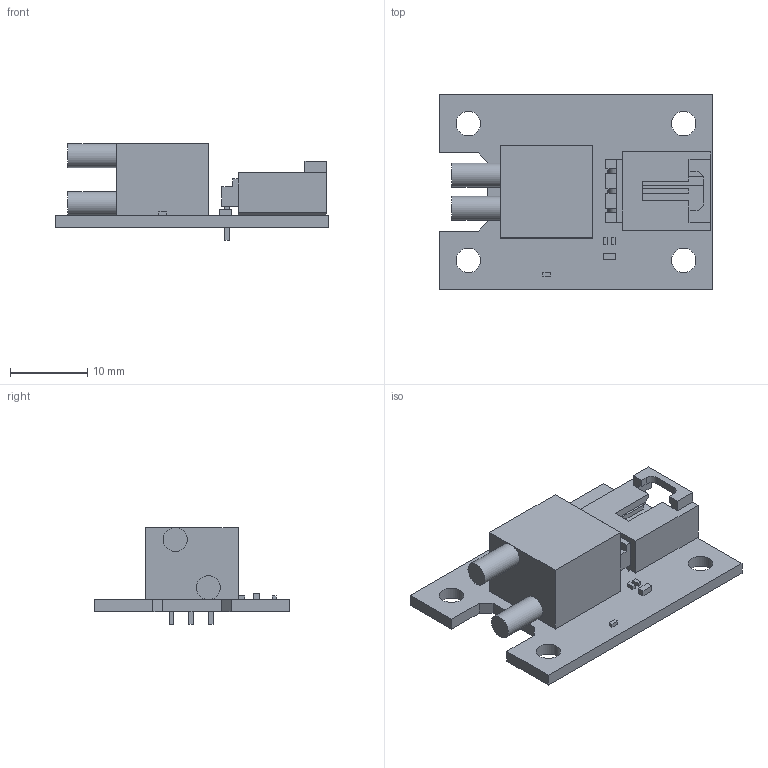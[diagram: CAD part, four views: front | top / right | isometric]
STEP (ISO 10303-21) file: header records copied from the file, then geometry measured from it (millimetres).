
FILE_DESCRIPTION(('Open CASCADE Model'),'2;1');
FILE_NAME('Open CASCADE Shape Model','2012-01-13T11:39:00',('Author'),( 'Open CASCADE'),'Open CASCADE STEP processor 6.2','Open CASCADE 6.2' ,'Unknown');
FILE_SCHEMA(('AUTOMOTIVE_DESIGN { 1 0 10303 214 1 1 1 1 }'));
Length unit declared in the file: millimetre
Products named in the file (23): PCB; Board; R1; 507763136; Extruded; C2; 507755072; J1; 705530002; Open CASCADE STEP translator 6.2 24.4.1.1; Open CASCADE STEP translator 6.2 24.4.1.2; U1; 507755328; 543083232; Cylinder; 507726032; C1; 507754560; C3
Assembly tree (23 placements, depth 4):
  PCB
    Board
    R1
      507763136
        Extruded
    C2
      507755072
        Extruded
    J1
      705530002
        Open CASCADE STEP translator 6.2 24.4.1.1
        Open CASCADE STEP translator 6.2 24.4.1.2
    U1
      507755328
        Extruded
      543083232
        Cylinder
      507726032
        Cylinder
    C1
      507754560
        Extruded
    C3
      507763136
        Extruded
Bounding box: 35.56 x 25.4 x 12.58 mm (x, y, z)
Volume: 3117.8 mm3; surface area: 3598.1 mm2
Topology: 9 solids, 9 shells, 168 faces, 431 edges, 292 vertices
Faces by surface type: plane 151, cylinder 17
Full cylindrical faces by diameter (mm): 0.965 x3, 3.12 x2, 3.175 x4
Entity records: 10675 total; most frequent: CARTESIAN_POINT 1805, DIRECTION 1605, LINE 1129, VECTOR 1129, ORIENTED_EDGE 820, PCURVE 820, DEFINITIONAL_REPRESENTATION 820, EDGE_CURVE 410
